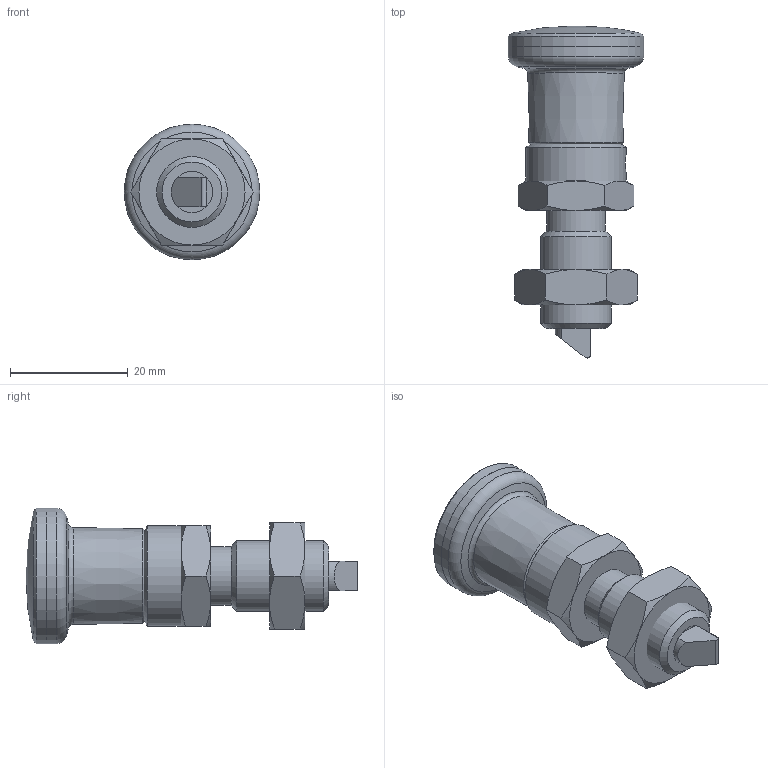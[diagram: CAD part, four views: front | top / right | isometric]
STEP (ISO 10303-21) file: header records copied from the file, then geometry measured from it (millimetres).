
FILE_DESCRIPTION(/* description */ ('STEP AP214'),/* implementation_level */ '2;1');
FILE_NAME(/* name */ 'Indexing Plunger_ Stainless Steel GN 824-5-5-CK-NI (deactivated)',/* time_stamp */ '2024-11-21T09:34:29+01:00',/* author */ ('License CC BY-ND 4.0'),/* organization */ ('CADENAS'),/* preprocessor_version */ 'ST-DEVELOPER v19.3',/* originating_system */ 'PARTsolutions',/* authorisation */ ' ');
FILE_SCHEMA (('AUTOMOTIVE_DESIGN {1 0 10303 214 3 1 1}'));
Length unit declared in the file: millimetre
Products named in the file (4): Indexing Plunger, Stainless Steel GN 824-5-5-CK-NI (deactivated); Indexing Plunger, Stainless Steel GN 824-5-5-CK-NI (closed)-1; Indexing Plunger, Stainless Steel GN 824-5-5-CK-NI (closed)-2; Indexing Plunger, Stainless Steel GN 824-5-5-CK-NI (closed)-3
Assembly tree (3 placements, depth 2):
  Indexing Plunger, Stainless Steel GN 824-5-5-CK-NI (deactivated)
    Indexing Plunger, Stainless Steel GN 824-5-5-CK-NI (closed)-1
    Indexing Plunger, Stainless Steel GN 824-5-5-CK-NI (closed)-2
    Indexing Plunger, Stainless Steel GN 824-5-5-CK-NI (closed)-3
Bounding box: 23 x 56.3 x 23 mm (x, y, z)
Volume: 10074.7 mm3; surface area: 7632.5 mm2
Topology: 3 solids, 3 shells, 104 faces, 224 edges, 137 vertices
Faces by surface type: plane 48, cone 33, cylinder 19, torus 3, sphere 1
Full cylindrical faces by diameter (mm): 3.3 x1, 5 x2, 7 x2, 8 x2, 9 x1, 10 x1, 10.106 x1, 12 x1, 17 x1, 22.98 x1, 23 x1
Entity records: 3351 total; most frequent: CARTESIAN_POINT 618, DIRECTION 426, ORIENTED_EDGE 382, EDGE_CURVE 191, AXIS2_PLACEMENT_3D 185, EDGE_LOOP 146, FACE_BOUND 146, VERTEX_POINT 131
